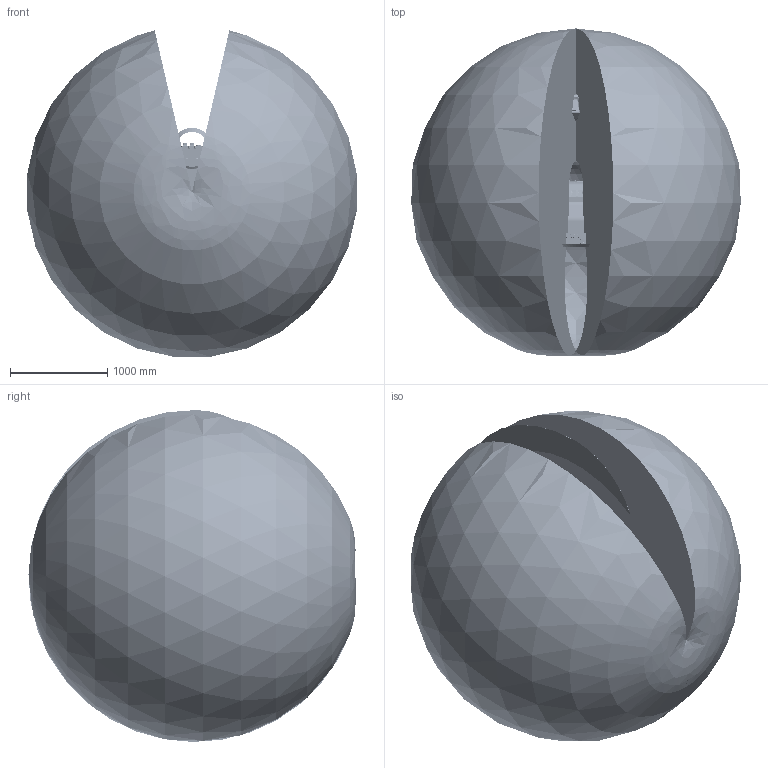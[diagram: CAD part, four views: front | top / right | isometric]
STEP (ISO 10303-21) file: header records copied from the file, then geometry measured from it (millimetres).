
FILE_DESCRIPTION((''),'2;1');
FILE_NAME('R25-1800_ASM','2024-06-08T13:17:52',('Administrator'),(''),'CREO PARAMETRIC BY PTC INC, 2018260','CREO PARAMETRIC BY PTC INC, 2018260','');
FILE_SCHEMA(('CONFIG_CONTROL_DESIGN','SHAPE_APPEARANCE_LAYERS_GROUPS'));
Length unit declared in the file: millimetre
Products named in the file (11): R25-1800_BASE; R25-1800_JOINT1; R25-1800_JOINT2; R25-1800_JOINT3; R25-1800_JOINT4; R25-1800_JOINT5; R25-1800_JOINT6; R25-1800_CABLE; R25-1800_RANGE; R25-1800_RANGE_2; R25-1800_ASM
Assembly tree (10 placements, depth 2):
  R25-1800_ASM
    R25-1800_BASE
    R25-1800_JOINT1
    R25-1800_JOINT2
    R25-1800_JOINT3
    R25-1800_JOINT4
    R25-1800_JOINT5
    R25-1800_JOINT6
    R25-1800_CABLE
    R25-1800_RANGE
    R25-1800_RANGE_2
Bounding box: 3381.07 x 3355.99 x 3406.44 mm (x, y, z)
Volume: 18484236238.7 mm3; surface area: 61190174.6 mm2
Topology: 10 solids, 40 shells, 7631 faces, 19069 edges, 11574 vertices
Faces by surface type: cylinder 2164, bspline 2100, plane 1717, torus 975, cone 549, sphere 123, extrusion 2, revolution 1
Entity records: 354521 total; most frequent: CARTESIAN_POINT 188032, ORIENTED_EDGE 37666, DIRECTION 30026, EDGE_CURVE 18859, AXIS2_PLACEMENT_3D 12228, VERTEX_POINT 11572, EDGE_LOOP 8027, FACE_OUTER_BOUND 7631
